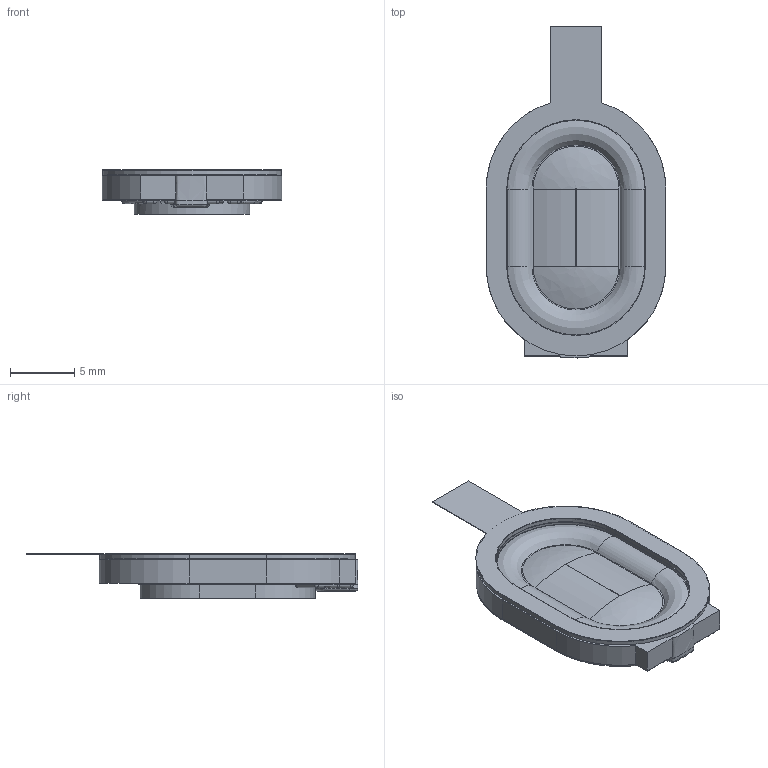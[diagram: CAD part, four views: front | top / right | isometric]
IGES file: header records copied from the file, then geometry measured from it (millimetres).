
Global section: file name: No Iges File Name specified; native system: Autodesk Inventor 2011; preprocessor: AutoDesk Inventor Iges Exporter R2011; author: Dunn; date: 20110614.160549; units: millimetre
Bounding box: 14 x 25.85 x 3.5 mm (x, y, z)
Volume: 405 mm3; surface area: 1549.9 mm2
Topology: 3 solids, 3 shells, 270 faces, 701 edges, 435 vertices
Faces by surface type: plane 105, cylinder 64, revolution 41, bspline 38, sphere 14, torus 6, cone 2
